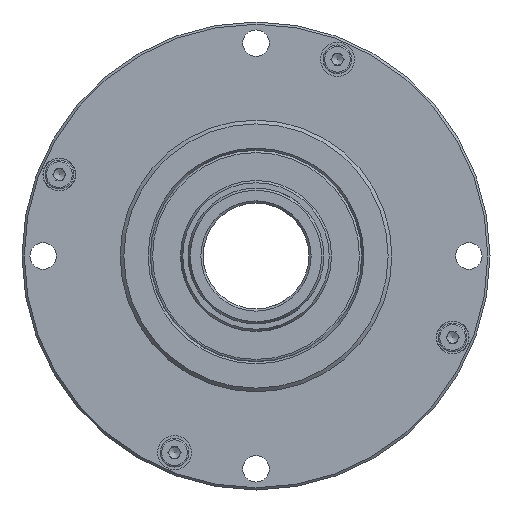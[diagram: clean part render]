
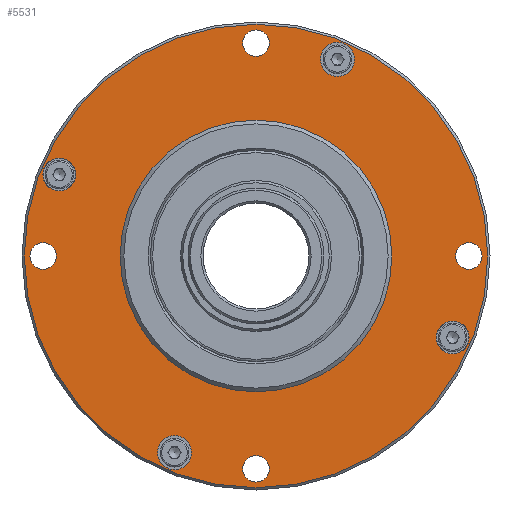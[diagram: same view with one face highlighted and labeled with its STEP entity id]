
A CAD part, left-side view. The second image highlights one B-rep face of the part: STEP entity #5531.
In plain terms, the highlighted planar face has unit normal (-1, 0, 0).
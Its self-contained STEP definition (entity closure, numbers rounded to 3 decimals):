
#218 = CARTESIAN_POINT ( 'NONE',  ( 14., 0., 0. ) ) ;
#342 = DIRECTION ( 'NONE',  ( 0., 0., 1. ) ) ;
#419 = AXIS2_PLACEMENT_3D ( 'NONE', #11044, #17196, #3432 ) ;
#465 = VERTEX_POINT ( 'NONE', #12323 ) ;
#956 = DIRECTION ( 'NONE',  ( 0., 0., 1. ) ) ;
#1061 = AXIS2_PLACEMENT_3D ( 'NONE', #19342, #13194, #17823 ) ;
#1397 = AXIS2_PLACEMENT_3D ( 'NONE', #218, #1733, #7853 ) ;
#1719 = FACE_BOUND ( 'NONE', #9178, .T. ) ;
#1733 = DIRECTION ( 'NONE',  ( 1., 0., 0. ) ) ;
#1765 = CARTESIAN_POINT ( 'NONE',  ( 14., -26.053, -10.792 ) ) ;
#1874 = DIRECTION ( 'NONE',  ( -1., 0., 0. ) ) ;
#1986 = CARTESIAN_POINT ( 'NONE',  ( 14., 0., 29.95 ) ) ;
#2082 = CARTESIAN_POINT ( 'NONE',  ( 14., 0., -26.45 ) ) ;
#2085 = CIRCLE ( 'NONE', #5927, 18. ) ;
#2249 = ORIENTED_EDGE ( 'NONE', *, *, #5864, .F. ) ;
#2654 = DIRECTION ( 'NONE',  ( 0., 0., 1. ) ) ;
#2824 = AXIS2_PLACEMENT_3D ( 'NONE', #16312, #11666, #12712 ) ;
#2839 = EDGE_LOOP ( 'NONE', ( #10557 ) ) ;
#2886 = CARTESIAN_POINT ( 'NONE',  ( 14., -26.053, -8.617 ) ) ;
#2929 = DIRECTION ( 'NONE',  ( -1., 0., 0. ) ) ;
#3008 = CIRCLE ( 'NONE', #12938, 1.75 ) ;
#3385 = ORIENTED_EDGE ( 'NONE', *, *, #15717, .F. ) ;
#3396 = VERTEX_POINT ( 'NONE', #1986 ) ;
#3432 = DIRECTION ( 'NONE',  ( 0., 0., 1. ) ) ;
#3472 = EDGE_CURVE ( 'NONE', #6190, #6190, #3008, .T. ) ;
#3600 = EDGE_CURVE ( 'NONE', #465, #465, #18722, .T. ) ;
#3760 = EDGE_CURVE ( 'NONE', #17560, #17560, #10033, .T. ) ;
#3763 = ORIENTED_EDGE ( 'NONE', *, *, #6782, .F. ) ;
#3976 = CARTESIAN_POINT ( 'NONE',  ( 14., 0., -30.7 ) ) ;
#4219 = EDGE_LOOP ( 'NONE', ( #3763 ) ) ;
#4221 = DIRECTION ( 'NONE',  ( 0., 0., 1. ) ) ;
#4421 = AXIS2_PLACEMENT_3D ( 'NONE', #18758, #1874, #14231 ) ;
#4552 = CARTESIAN_POINT ( 'NONE',  ( 14., 0., -18. ) ) ;
#4925 = FACE_BOUND ( 'NONE', #17177, .T. ) ;
#5032 = FACE_BOUND ( 'NONE', #4219, .T. ) ;
#5207 = EDGE_LOOP ( 'NONE', ( #12354 ) ) ;
#5355 = DIRECTION ( 'NONE',  ( -1., 0., 0. ) ) ;
#5531 = ADVANCED_FACE ( 'NONE', ( #15405, #13980, #4925, #5032, #6226, #18805, #9351, #16797, #1719, #12461 ), #10941, .T. ) ;
#5864 = EDGE_CURVE ( 'NONE', #16650, #16650, #12479, .T. ) ;
#5927 = AXIS2_PLACEMENT_3D ( 'NONE', #15233, #13511, #6054 ) ;
#6054 = DIRECTION ( 'NONE',  ( 0., 0., -1. ) ) ;
#6112 = EDGE_CURVE ( 'NONE', #17238, #17238, #16023, .T. ) ;
#6190 = VERTEX_POINT ( 'NONE', #9617 ) ;
#6226 = FACE_BOUND ( 'NONE', #11888, .T. ) ;
#6371 = CARTESIAN_POINT ( 'NONE',  ( 14., 26.053, 12.967 ) ) ;
#6459 = CARTESIAN_POINT ( 'NONE',  ( 14., -28.2, 0. ) ) ;
#6782 = EDGE_CURVE ( 'NONE', #12209, #12209, #10540, .T. ) ;
#6914 = AXIS2_PLACEMENT_3D ( 'NONE', #13294, #16426, #2654 ) ;
#7420 = CARTESIAN_POINT ( 'NONE',  ( 14., 26.053, 10.792 ) ) ;
#7853 = DIRECTION ( 'NONE',  ( 0., 0., -1. ) ) ;
#8099 = EDGE_LOOP ( 'NONE', ( #15038 ) ) ;
#8487 = CARTESIAN_POINT ( 'NONE',  ( 14., 10.792, -26.053 ) ) ;
#8925 = ORIENTED_EDGE ( 'NONE', *, *, #18532, .F. ) ;
#8986 = AXIS2_PLACEMENT_3D ( 'NONE', #8487, #11590, #956 ) ;
#9178 = EDGE_LOOP ( 'NONE', ( #14080 ) ) ;
#9190 = CIRCLE ( 'NONE', #6914, 2.25 ) ;
#9351 = FACE_BOUND ( 'NONE', #8099, .T. ) ;
#9617 = CARTESIAN_POINT ( 'NONE',  ( 14., -28.2, 1.75 ) ) ;
#10033 = CIRCLE ( 'NONE', #1397, 30.7 ) ;
#10540 = CIRCLE ( 'NONE', #18897, 2.175 ) ;
#10557 = ORIENTED_EDGE ( 'NONE', *, *, #3472, .F. ) ;
#10941 = PLANE ( 'NONE',  #419 ) ;
#10995 = DIRECTION ( 'NONE',  ( 0., 0., 1. ) ) ;
#11044 = CARTESIAN_POINT ( 'NONE',  ( 14., 30.7, 0. ) ) ;
#11198 = DIRECTION ( 'NONE',  ( -1., 0., 0. ) ) ;
#11405 = CARTESIAN_POINT ( 'NONE',  ( 14., -10.792, 28.303 ) ) ;
#11509 = AXIS2_PLACEMENT_3D ( 'NONE', #1765, #11198, #10995 ) ;
#11590 = DIRECTION ( 'NONE',  ( -1., 0., 0. ) ) ;
#11666 = DIRECTION ( 'NONE',  ( -1., 0., 0. ) ) ;
#11680 = ORIENTED_EDGE ( 'NONE', *, *, #3600, .F. ) ;
#11888 = EDGE_LOOP ( 'NONE', ( #3385 ) ) ;
#11969 = EDGE_CURVE ( 'NONE', #12377, #12377, #2085, .T. ) ;
#12209 = VERTEX_POINT ( 'NONE', #6371 ) ;
#12323 = CARTESIAN_POINT ( 'NONE',  ( 14., 28.2, 1.75 ) ) ;
#12354 = ORIENTED_EDGE ( 'NONE', *, *, #3760, .F. ) ;
#12377 = VERTEX_POINT ( 'NONE', #4552 ) ;
#12461 = FACE_OUTER_BOUND ( 'NONE', #5207, .T. ) ;
#12479 = CIRCLE ( 'NONE', #11509, 2.175 ) ;
#12712 = DIRECTION ( 'NONE',  ( 0., 0., 1. ) ) ;
#12924 = VERTEX_POINT ( 'NONE', #11405 ) ;
#12938 = AXIS2_PLACEMENT_3D ( 'NONE', #6459, #5355, #342 ) ;
#13194 = DIRECTION ( 'NONE',  ( -1., 0., 0. ) ) ;
#13294 = CARTESIAN_POINT ( 'NONE',  ( 14., -10.792, 26.053 ) ) ;
#13511 = DIRECTION ( 'NONE',  ( 1., 0., 0. ) ) ;
#13947 = VERTEX_POINT ( 'NONE', #2082 ) ;
#13980 = FACE_BOUND ( 'NONE', #18868, .T. ) ;
#14050 = CIRCLE ( 'NONE', #4421, 1.75 ) ;
#14063 = EDGE_LOOP ( 'NONE', ( #8925 ) ) ;
#14080 = ORIENTED_EDGE ( 'NONE', *, *, #11969, .T. ) ;
#14231 = DIRECTION ( 'NONE',  ( 0., 0., 1. ) ) ;
#15038 = ORIENTED_EDGE ( 'NONE', *, *, #15757, .F. ) ;
#15233 = CARTESIAN_POINT ( 'NONE',  ( 14., 0., 0. ) ) ;
#15405 = FACE_BOUND ( 'NONE', #14063, .T. ) ;
#15638 = CARTESIAN_POINT ( 'NONE',  ( 14., 10.792, -23.803 ) ) ;
#15717 = EDGE_CURVE ( 'NONE', #13947, #13947, #17578, .T. ) ;
#15757 = EDGE_CURVE ( 'NONE', #3396, #3396, #14050, .T. ) ;
#16023 = CIRCLE ( 'NONE', #8986, 2.25 ) ;
#16312 = CARTESIAN_POINT ( 'NONE',  ( 14., 0., -28.2 ) ) ;
#16426 = DIRECTION ( 'NONE',  ( -1., 0., 0. ) ) ;
#16650 = VERTEX_POINT ( 'NONE', #2886 ) ;
#16797 = FACE_BOUND ( 'NONE', #19722, .T. ) ;
#17021 = ORIENTED_EDGE ( 'NONE', *, *, #6112, .F. ) ;
#17177 = EDGE_LOOP ( 'NONE', ( #2249 ) ) ;
#17196 = DIRECTION ( 'NONE',  ( -1., 0., 0. ) ) ;
#17238 = VERTEX_POINT ( 'NONE', #15638 ) ;
#17560 = VERTEX_POINT ( 'NONE', #3976 ) ;
#17578 = CIRCLE ( 'NONE', #2824, 1.75 ) ;
#17823 = DIRECTION ( 'NONE',  ( 0., 0., 1. ) ) ;
#18532 = EDGE_CURVE ( 'NONE', #12924, #12924, #9190, .T. ) ;
#18722 = CIRCLE ( 'NONE', #1061, 1.75 ) ;
#18758 = CARTESIAN_POINT ( 'NONE',  ( 14., 0., 28.2 ) ) ;
#18805 = FACE_BOUND ( 'NONE', #2839, .T. ) ;
#18868 = EDGE_LOOP ( 'NONE', ( #17021 ) ) ;
#18897 = AXIS2_PLACEMENT_3D ( 'NONE', #7420, #2929, #4221 ) ;
#19342 = CARTESIAN_POINT ( 'NONE',  ( 14., 28.2, 0. ) ) ;
#19722 = EDGE_LOOP ( 'NONE', ( #11680 ) ) ;
